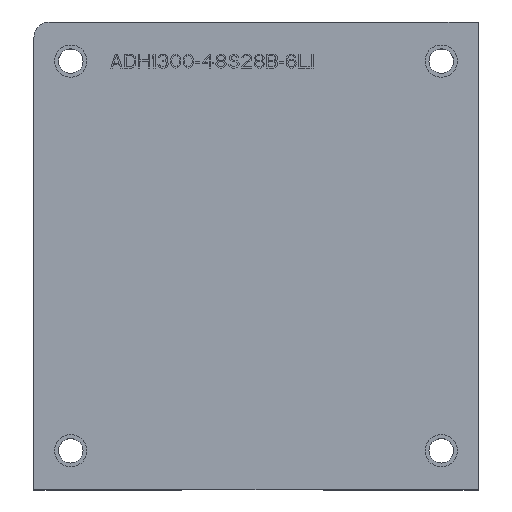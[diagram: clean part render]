
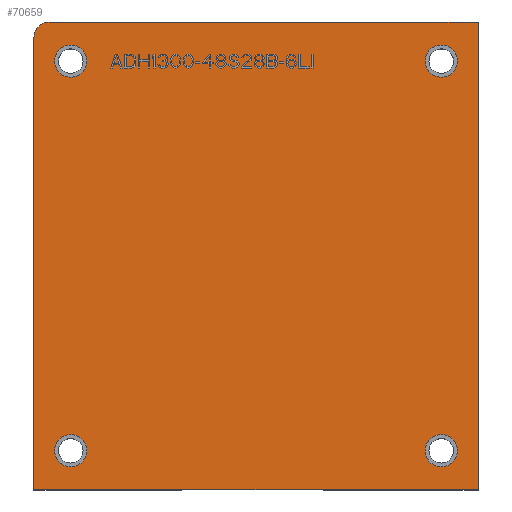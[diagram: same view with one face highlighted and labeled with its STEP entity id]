
A CAD part, top view. The second image highlights one B-rep face of the part: STEP entity #70659.
In plain terms, the highlighted planar face has unit normal (0, 0, 1) as drawn and (0, 1, 0) by its records, which use the part's own axes.
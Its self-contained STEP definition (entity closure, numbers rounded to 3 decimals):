
#69080=CARTESIAN_POINT('',(-26.95,5.3,-28.5));
#69081=DIRECTION('',(0.,-1.,0.));
#69082=DIRECTION('',(-1.,0.,0.));
#69083=AXIS2_PLACEMENT_3D('',#69080,#69081,#69082);
#69085=CARTESIAN_POINT('',(-24.15,5.3,-25.4));
#69086=DIRECTION('',(0.,1.,0.));
#69087=DIRECTION('',(1.,0.,0.));
#69088=AXIS2_PLACEMENT_3D('',#69085,#69086,#69087);
#69090=CARTESIAN_POINT('',(-24.15,5.3,-25.4));
#69091=DIRECTION('',(0.,1.,0.));
#69092=DIRECTION('',(-1.,0.,0.));
#69093=AXIS2_PLACEMENT_3D('',#69090,#69091,#69092);
#69095=CARTESIAN_POINT('',(24.15,5.3,-25.4));
#69096=DIRECTION('',(0.,1.,0.));
#69097=DIRECTION('',(1.,0.,0.));
#69098=AXIS2_PLACEMENT_3D('',#69095,#69096,#69097);
#69100=CARTESIAN_POINT('',(24.15,5.3,-25.4));
#69101=DIRECTION('',(0.,1.,0.));
#69102=DIRECTION('',(-1.,0.,0.));
#69103=AXIS2_PLACEMENT_3D('',#69100,#69101,#69102);
#69105=CARTESIAN_POINT('',(-24.15,5.3,25.4));
#69106=DIRECTION('',(0.,1.,0.));
#69107=DIRECTION('',(1.,0.,0.));
#69108=AXIS2_PLACEMENT_3D('',#69105,#69106,#69107);
#69110=CARTESIAN_POINT('',(-24.15,5.3,25.4));
#69111=DIRECTION('',(0.,1.,0.));
#69112=DIRECTION('',(-1.,0.,0.));
#69113=AXIS2_PLACEMENT_3D('',#69110,#69111,#69112);
#69115=CARTESIAN_POINT('',(24.15,5.3,25.4));
#69116=DIRECTION('',(0.,1.,0.));
#69117=DIRECTION('',(1.,0.,0.));
#69118=AXIS2_PLACEMENT_3D('',#69115,#69116,#69117);
#69120=CARTESIAN_POINT('',(24.15,5.3,25.4));
#69121=DIRECTION('',(0.,1.,0.));
#69122=DIRECTION('',(-1.,0.,0.));
#69123=AXIS2_PLACEMENT_3D('',#69120,#69121,#69122);
#69232=DIRECTION('',(-1.,0.,0.));
#69233=VECTOR('',#69232,55.9);
#69234=CARTESIAN_POINT('',(28.95,5.3,-30.5));
#69235=LINE('',#69234,#69233);
#69694=DIRECTION('',(1.,0.,0.));
#69695=VECTOR('',#69694,57.9);
#69696=CARTESIAN_POINT('',(-28.95,5.3,30.5));
#69697=LINE('',#69696,#69695);
#69773=DIRECTION('',(0.,0.,1.));
#69774=VECTOR('',#69773,59.);
#69775=CARTESIAN_POINT('',(-28.95,5.3,-28.5));
#69776=LINE('',#69775,#69774);
#69912=DIRECTION('',(0.,0.,-1.));
#69913=VECTOR('',#69912,61.);
#69914=CARTESIAN_POINT('',(28.95,5.3,30.5));
#69915=LINE('',#69914,#69913);
#70254=CARTESIAN_POINT('',(-28.95,5.3,-28.5));
#70255=CARTESIAN_POINT('',(-26.95,5.3,-30.5));
#70256=VERTEX_POINT('',#70254);
#70257=VERTEX_POINT('',#70255);
#70258=CARTESIAN_POINT('',(28.95,5.3,-30.5));
#70259=VERTEX_POINT('',#70258);
#70260=CARTESIAN_POINT('',(28.95,5.3,30.5));
#70261=VERTEX_POINT('',#70260);
#70262=CARTESIAN_POINT('',(-28.95,5.3,30.5));
#70263=VERTEX_POINT('',#70262);
#70264=CARTESIAN_POINT('',(-22.05,5.3,-25.4));
#70265=CARTESIAN_POINT('',(-26.25,5.3,-25.4));
#70266=VERTEX_POINT('',#70264);
#70267=VERTEX_POINT('',#70265);
#70268=CARTESIAN_POINT('',(26.25,5.3,-25.4));
#70269=CARTESIAN_POINT('',(22.05,5.3,-25.4));
#70270=VERTEX_POINT('',#70268);
#70271=VERTEX_POINT('',#70269);
#70272=CARTESIAN_POINT('',(-22.05,5.3,25.4));
#70273=CARTESIAN_POINT('',(-26.25,5.3,25.4));
#70274=VERTEX_POINT('',#70272);
#70275=VERTEX_POINT('',#70273);
#70276=CARTESIAN_POINT('',(26.25,5.3,25.4));
#70277=CARTESIAN_POINT('',(22.05,5.3,25.4));
#70278=VERTEX_POINT('',#70276);
#70279=VERTEX_POINT('',#70277);
#70618=CARTESIAN_POINT('',(0.,5.3,0.));
#70619=DIRECTION('',(0.,1.,0.));
#70620=DIRECTION('',(1.,0.,0.));
#70621=AXIS2_PLACEMENT_3D('',#70618,#70619,#70620);
#70622=PLANE('',#70621);
#70624=ORIENTED_EDGE('',*,*,#70623,.T.);
#70626=ORIENTED_EDGE('',*,*,#70625,.F.);
#70628=ORIENTED_EDGE('',*,*,#70627,.F.);
#70630=ORIENTED_EDGE('',*,*,#70629,.F.);
#70632=ORIENTED_EDGE('',*,*,#70631,.F.);
#70633=EDGE_LOOP('',(#70624,#70626,#70628,#70630,#70632));
#70634=FACE_OUTER_BOUND('',#70633,.F.);
#70636=ORIENTED_EDGE('',*,*,#70635,.T.);
#70638=ORIENTED_EDGE('',*,*,#70637,.T.);
#70639=EDGE_LOOP('',(#70636,#70638));
#70640=FACE_BOUND('',#70639,.F.);
#70642=ORIENTED_EDGE('',*,*,#70641,.T.);
#70644=ORIENTED_EDGE('',*,*,#70643,.T.);
#70645=EDGE_LOOP('',(#70642,#70644));
#70646=FACE_BOUND('',#70645,.F.);
#70648=ORIENTED_EDGE('',*,*,#70647,.T.);
#70650=ORIENTED_EDGE('',*,*,#70649,.T.);
#70651=EDGE_LOOP('',(#70648,#70650));
#70652=FACE_BOUND('',#70651,.F.);
#70654=ORIENTED_EDGE('',*,*,#70653,.T.);
#70656=ORIENTED_EDGE('',*,*,#70655,.T.);
#70657=EDGE_LOOP('',(#70654,#70656));
#70658=FACE_BOUND('',#70657,.F.);
#70659=ADVANCED_FACE('',(#70634,#70640,#70646,#70652,#70658),#70622,.T.);
#69084=CIRCLE('',#69083,2.);
#69089=CIRCLE('',#69088,2.1);
#69094=CIRCLE('',#69093,2.1);
#69099=CIRCLE('',#69098,2.1);
#69104=CIRCLE('',#69103,2.1);
#69109=CIRCLE('',#69108,2.1);
#69114=CIRCLE('',#69113,2.1);
#69119=CIRCLE('',#69118,2.1);
#69124=CIRCLE('',#69123,2.1);
#70623=EDGE_CURVE('',#70256,#70257,#69084,.T.);
#70625=EDGE_CURVE('',#70259,#70257,#69235,.T.);
#70627=EDGE_CURVE('',#70261,#70259,#69915,.T.);
#70629=EDGE_CURVE('',#70263,#70261,#69697,.T.);
#70631=EDGE_CURVE('',#70256,#70263,#69776,.T.);
#70635=EDGE_CURVE('',#70266,#70267,#69089,.T.);
#70637=EDGE_CURVE('',#70267,#70266,#69094,.T.);
#70641=EDGE_CURVE('',#70270,#70271,#69099,.T.);
#70643=EDGE_CURVE('',#70271,#70270,#69104,.T.);
#70647=EDGE_CURVE('',#70274,#70275,#69109,.T.);
#70649=EDGE_CURVE('',#70275,#70274,#69114,.T.);
#70653=EDGE_CURVE('',#70278,#70279,#69119,.T.);
#70655=EDGE_CURVE('',#70279,#70278,#69124,.T.);
